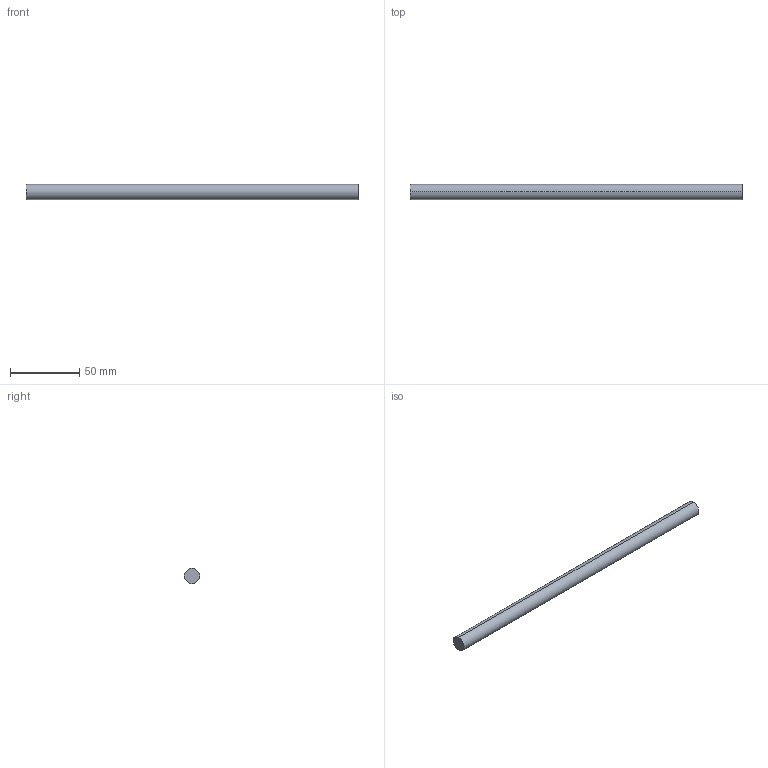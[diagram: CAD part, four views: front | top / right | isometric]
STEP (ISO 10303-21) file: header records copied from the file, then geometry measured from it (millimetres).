
FILE_DESCRIPTION (( 'STEP AP214' ), '1' );
FILE_NAME ('Querreling_Frontblende_Innenlade_KS-16_25mm-Halter_KAB-350.step', '2010-09-22T15:05:37', ( 'grass' ), ( '' ), 'SwSTEP 2.0', 'SolidWorks 2010', '' );
FILE_SCHEMA (( 'AUTOMOTIVE_DESIGN' ));
Length unit declared in the file: millimetre
Products named in the file (1): Querreling_Frontblende_Innenlade_KS-16_25mm-Halter_KAB-350
Bounding box: 240 x 11 x 11 mm (x, y, z)
Volume: 22808 mm3; surface area: 8483.9 mm2
Topology: 1 solids, 1 shells, 4 faces, 6 edges, 4 vertices
Faces by surface type: cylinder 2, plane 2
Entity records: 128 total; most frequent: DIRECTION 20, CARTESIAN_POINT 15, ORIENTED_EDGE 12, AXIS2_PLACEMENT_3D 9, EDGE_CURVE 6, VERTEX_POINT 4, EDGE_LOOP 4, FACE_OUTER_BOUND 4
